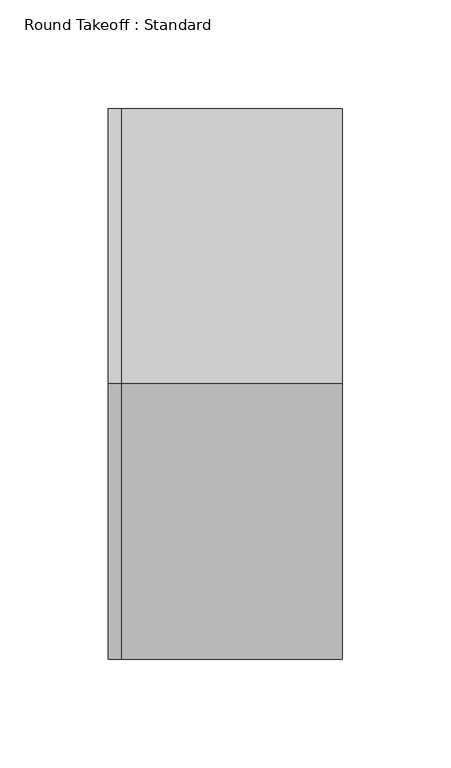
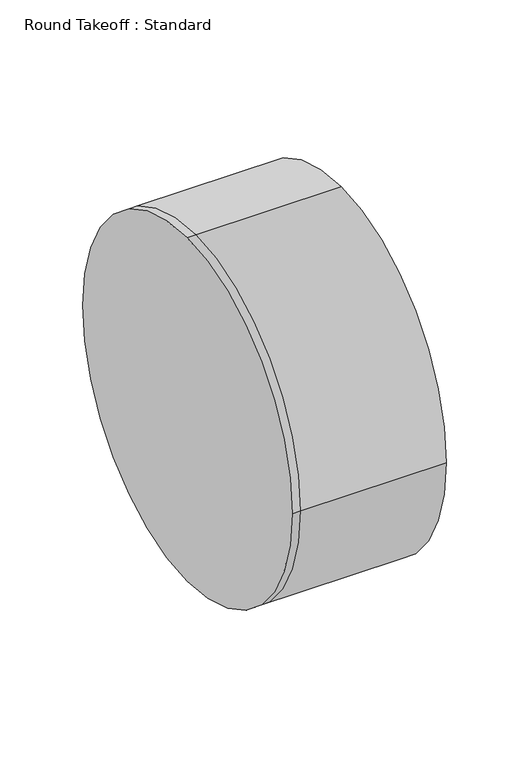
"""IFC4 building model written with IfcOpenShell, lengths in millimetres: duct fitting geometry, Round Takeoff : Standard."""

from ifc_helpers import new_model, si_unit, frame, origin, place, context, project, spatial, circle_curve, source, transform, mapped, element, save
from ifc_brep_helpers import plane_surface, cylinder_surface, advanced_brep


def round_takeoff_standard_98831ccd(model_context):
    return source(origin(), model_context, "Body", "AdvancedBrep", [
        advanced_brep(
        [(101.6, 0.0, 127.0), (101.6, -127.0, 0.0), (101.6, 0.0, -127.0), (101.6, 127.0, 0.0), (0.0, 0.0, 127.0), (0.0, -127.0, 0.0), (0.0, 0.0, -127.0), (0.0, 127.0, 0.0), (-6.096, 0.0, 127.0), (-6.096, 127.0, 0.0), (-6.096, 0.0, -127.0), (-6.096, -127.0, 0.0)],
        [
            (0, 1, circle_curve(frame((101.6, 0.0, 0.0), z_axis=(1.0, 0.0, 0.0), x_axis=(0.0, -1.0, 0.0)), 127.0)),
            (1, 2, circle_curve(frame((101.6, 0.0, 0.0), z_axis=(1.0, 0.0, 0.0), x_axis=(0.0, -1.0, 0.0)), 127.0)),
            (2, 3, circle_curve(frame((101.6, 0.0, 0.0), z_axis=(1.0, 0.0, 0.0), x_axis=(0.0, -1.0, 0.0)), 127.0)),
            (3, 0, circle_curve(frame((101.6, 0.0, 0.0), z_axis=(1.0, 0.0, 0.0), x_axis=(0.0, -1.0, 0.0)), 127.0)),
            (0, 4),
            (4, 5, circle_curve(frame((0.0, 0.0, 0.0), z_axis=(1.0, 0.0, 0.0), x_axis=(0.0, -1.0, 0.0)), 127.0)),
            (5, 1),
            (5, 6, circle_curve(frame((0.0, 0.0, 0.0), z_axis=(1.0, 0.0, 0.0), x_axis=(0.0, -1.0, 0.0)), 127.0)),
            (6, 2),
            (6, 7, circle_curve(frame((0.0, 0.0, 0.0), z_axis=(1.0, 0.0, 0.0), x_axis=(0.0, -1.0, 0.0)), 127.0)),
            (7, 3),
            (7, 4, circle_curve(frame((0.0, 0.0, 0.0), z_axis=(1.0, 0.0, 0.0), x_axis=(0.0, -1.0, 0.0)), 127.0)),
            (8, 9, circle_curve(frame((-6.096, 0.0, 0.0), z_axis=(-1.0, 0.0, 0.0), x_axis=(0.0, -1.0, 0.0)), 127.0)),
            (9, 10, circle_curve(frame((-6.096, 0.0, 0.0), z_axis=(-1.0, 0.0, 0.0), x_axis=(0.0, -1.0, 0.0)), 127.0)),
            (10, 11, circle_curve(frame((-6.096, 0.0, 0.0), z_axis=(-1.0, 0.0, 0.0), x_axis=(0.0, -1.0, 0.0)), 127.0)),
            (11, 8, circle_curve(frame((-6.096, 0.0, 0.0), z_axis=(-1.0, 0.0, 0.0), x_axis=(0.0, -1.0, 0.0)), 127.0)),
            (11, 5),
            (4, 8),
            (10, 6),
            (9, 7),
        ],
        [
            plane_surface(frame((101.6, 0.0, 0.0), z_axis=(1.0, 0.0, 0.0), x_axis=(0.0, 0.0, 1.0))),
            cylinder_surface(frame((0.0, 0.0, 0.0), z_axis=(-1.0, 0.0, 0.0), x_axis=(0.0, -1.0, 0.0)), 127.0),
            plane_surface(frame((-6.096, 0.0, 0.0), z_axis=(-1.0, 0.0, 0.0), x_axis=(0.0, 0.0, 1.0))),
            cylinder_surface(frame((-6.096, 0.0, 0.0), z_axis=(-1.0, 0.0, 0.0), x_axis=(0.0, -1.0, 0.0)), 127.0),
        ],
        [
            (0, [[1, 2, 3, 4]]),
            (1, [[5, 6, 7, -1]]),
            (1, [[-7, 8, 9, -2]]),
            (1, [[-9, 10, 11, -3]]),
            (1, [[-11, 12, -5, -4]]),
            (2, [[13, 14, 15, 16]]),
            (3, [[17, -6, 18, -16]]),
            (3, [[19, -8, -17, -15]]),
            (3, [[20, -10, -19, -14]]),
            (3, [[-18, -12, -20, -13]]),
        ],
    ),
    ])


if __name__ == "__main__":
    model = new_model("IFC4")
    model_context = context("Model", 3, world=origin())
    ifc_project = project(units=[si_unit("LENGTHUNIT", "METRE", prefix="MILLI")], contexts=[model_context])
    site = spatial("IfcSite", under=ifc_project)
    building = spatial("IfcBuilding", under=site)
    placement = place(None, origin())
    round_takeoff_standard_shape = round_takeoff_standard_98831ccd(model_context)
    element("IfcDuctFitting", 1, ObjectType="Round Takeoff : Standard", at=placement, inside=building, context=model_context, shape_type="MappedRepresentation", body=[
        mapped(round_takeoff_standard_shape, transform((0.0, 0.0, 0.0), x_axis=(1.0, 0.0, 0.0), y_axis=(0.0, 1.0, 0.0), z_axis=(0.0, 0.0, 1.0))),
    ])
    save(model, "model.ifc")
